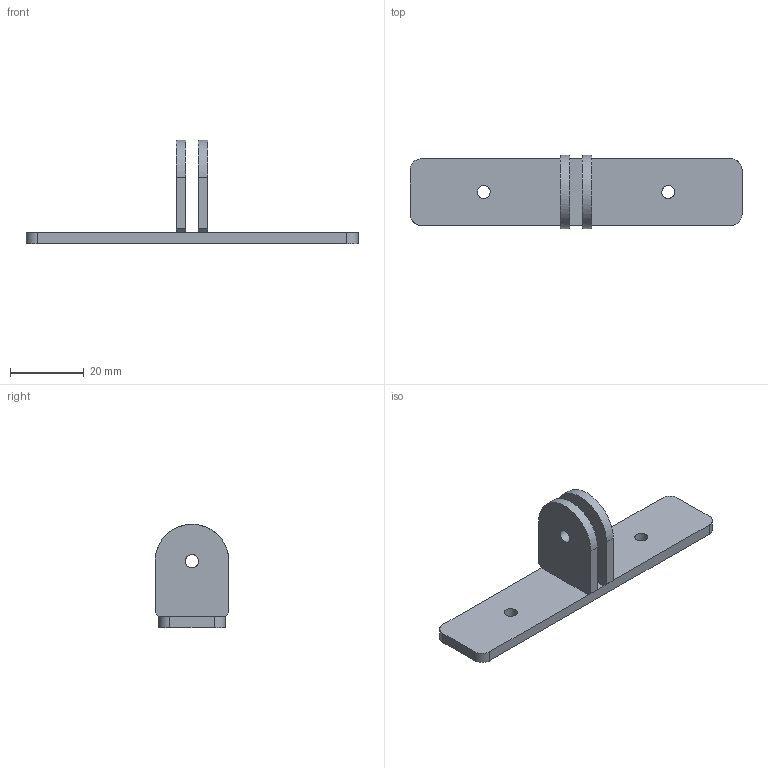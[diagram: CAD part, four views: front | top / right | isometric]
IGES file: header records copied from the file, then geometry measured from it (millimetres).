
Global section: file name: sr305_mount_horizontal v3; native system: unknown; preprocessor: unknown; author: unknown; organization: unknown; date: 20200329.203130; units: millimetre
Bounding box: 90 x 20 x 27.99 mm (x, y, z)
Volume: 7099.4 mm3; surface area: 5957.5 mm2
Topology: 1 solids, 1 shells, 30 faces, 76 edges, 48 vertices
Faces by surface type: bspline 30
